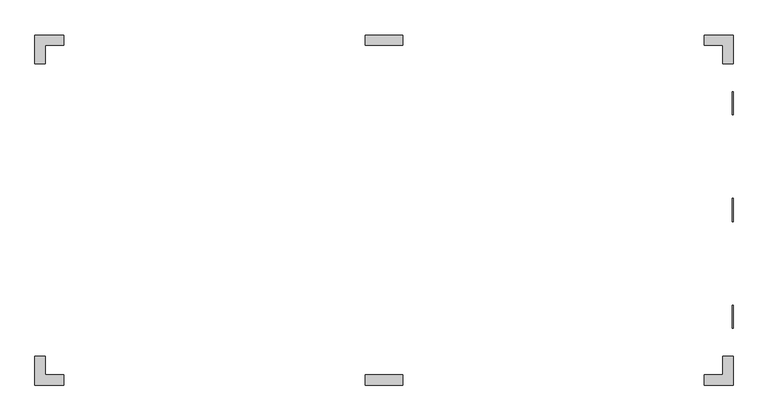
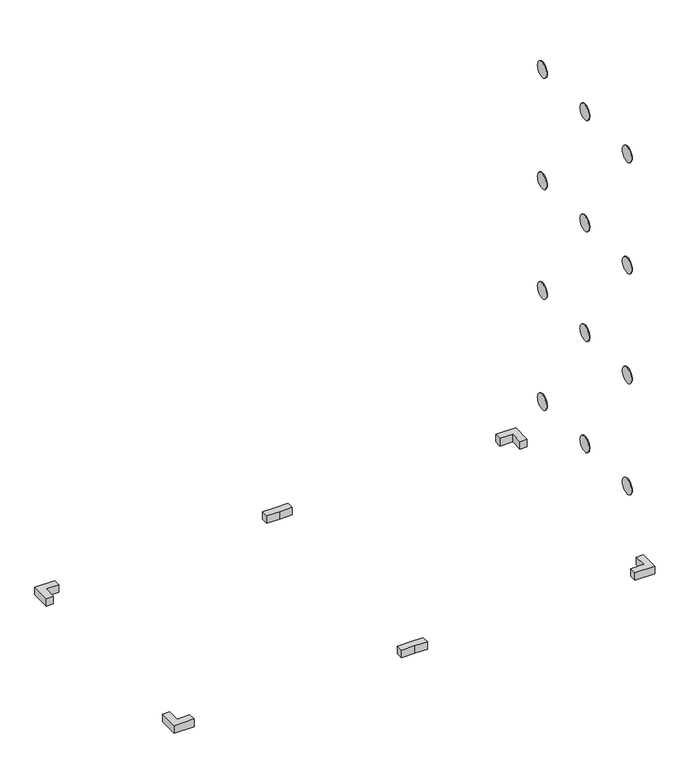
"""IFC4 building model written with IfcOpenShell, lengths in millimetres: cable carrier fitting geometry, КНС_КолодецПластиковыйСЛюком_1500-750-1500_301500_DKC : Колодец кабельный 1500×750×1500_301500."""

from ifc_helpers import new_model, si_unit, point, frame, frame_2d, origin, place, context, project, spatial, polyline, circle_curve, trimmed, segment, composite_curve, outline, extrude, source, transform, mapped, element, save


def cable_carrier_fitting_5b58c212(model_context):
    return source(origin(), model_context, "Body", "SweptSolid", [
        extrude(outline(composite_curve([segment(trimmed(circle_curve(frame_2d((-230.0, 593.75)), 25.0), [point((-255.0, 593.75))], [point((-205.0, 593.75))], False, "CARTESIAN"), True, "CONTINUOUS"), segment(trimmed(circle_curve(frame_2d((-230.0, 593.75)), 25.0), [point((-205.0, 593.75))], [point((-255.0, 593.75))], False, "CARTESIAN"), True, "CONTINUOUS")], self_intersect=False)), frame((750.0, 0.0, 0.0), z_axis=(1.0, 0.0, 0.0), x_axis=(0.0, 1.0, 0.0)), (0.0, 0.0, 1.0), 2.0),
        extrude(outline(composite_curve([segment(trimmed(circle_curve(frame_2d((0.0, 593.75)), 25.0), [point((-25.0, 593.75))], [point((25.0, 593.75))], False, "CARTESIAN"), True, "CONTINUOUS"), segment(trimmed(circle_curve(frame_2d((0.0, 593.75)), 25.0), [point((25.0, 593.75))], [point((-25.0, 593.75))], False, "CARTESIAN"), True, "CONTINUOUS")], self_intersect=False)), frame((750.0, 0.0, 0.0), z_axis=(1.0, 0.0, 0.0), x_axis=(0.0, 1.0, 0.0)), (0.0, 0.0, 1.0), 2.0),
        extrude(outline(composite_curve([segment(trimmed(circle_curve(frame_2d((230.0, 593.75)), 25.0), [point((205.0, 593.75))], [point((255.0, 593.75))], False, "CARTESIAN"), True, "CONTINUOUS"), segment(trimmed(circle_curve(frame_2d((230.0, 593.75)), 25.0), [point((255.0, 593.75))], [point((205.0, 593.75))], False, "CARTESIAN"), True, "CONTINUOUS")], self_intersect=False)), frame((750.0, 0.0, 0.0), z_axis=(1.0, 0.0, 0.0), x_axis=(0.0, 1.0, 0.0)), (0.0, 0.0, 1.0), 2.0),
        extrude(outline(composite_curve([segment(trimmed(circle_curve(frame_2d((-230.0, 226.25)), 25.0), [point((-255.0, 226.25))], [point((-205.0, 226.25))], False, "CARTESIAN"), True, "CONTINUOUS"), segment(trimmed(circle_curve(frame_2d((-230.0, 226.25)), 25.0), [point((-205.0, 226.25))], [point((-255.0, 226.25))], False, "CARTESIAN"), True, "CONTINUOUS")], self_intersect=False)), frame((750.0, 0.0, 0.0), z_axis=(1.0, 0.0, 0.0), x_axis=(0.0, 1.0, 0.0)), (0.0, 0.0, 1.0), 2.0),
        extrude(outline(composite_curve([segment(trimmed(circle_curve(frame_2d((0.0, 226.25)), 25.0), [point((-25.0, 226.25))], [point((25.0, 226.25))], False, "CARTESIAN"), True, "CONTINUOUS"), segment(trimmed(circle_curve(frame_2d((0.0, 226.25)), 25.0), [point((25.0, 226.25))], [point((-25.0, 226.25))], False, "CARTESIAN"), True, "CONTINUOUS")], self_intersect=False)), frame((750.0, 0.0, 0.0), z_axis=(1.0, 0.0, 0.0), x_axis=(0.0, 1.0, 0.0)), (0.0, 0.0, 1.0), 2.0),
        extrude(outline(composite_curve([segment(trimmed(circle_curve(frame_2d((230.0, 226.25)), 25.0), [point((205.0, 226.25))], [point((255.0, 226.25))], False, "CARTESIAN"), True, "CONTINUOUS"), segment(trimmed(circle_curve(frame_2d((230.0, 226.25)), 25.0), [point((255.0, 226.25))], [point((205.0, 226.25))], False, "CARTESIAN"), True, "CONTINUOUS")], self_intersect=False)), frame((750.0, 0.0, 0.0), z_axis=(1.0, 0.0, 0.0), x_axis=(0.0, 1.0, 0.0)), (0.0, 0.0, 1.0), 2.0),
        extrude(outline(composite_curve([segment(trimmed(circle_curve(frame_2d((-230.0, 956.25)), 25.0), [point((-255.0, 956.25))], [point((-205.0, 956.25))], False, "CARTESIAN"), True, "CONTINUOUS"), segment(trimmed(circle_curve(frame_2d((-230.0, 956.25)), 25.0), [point((-205.0, 956.25))], [point((-255.0, 956.25))], False, "CARTESIAN"), True, "CONTINUOUS")], self_intersect=False)), frame((750.0, 0.0, 0.0), z_axis=(1.0, 0.0, 0.0), x_axis=(0.0, 1.0, 0.0)), (0.0, 0.0, 1.0), 2.0),
        extrude(outline(composite_curve([segment(trimmed(circle_curve(frame_2d((0.0, 956.25)), 25.0), [point((-25.0, 956.25))], [point((25.0, 956.25))], False, "CARTESIAN"), True, "CONTINUOUS"), segment(trimmed(circle_curve(frame_2d((0.0, 956.25)), 25.0), [point((25.0, 956.25))], [point((-25.0, 956.25))], False, "CARTESIAN"), True, "CONTINUOUS")], self_intersect=False)), frame((750.0, 0.0, 0.0), z_axis=(1.0, 0.0, 0.0), x_axis=(0.0, 1.0, 0.0)), (0.0, 0.0, 1.0), 2.0),
        extrude(outline(composite_curve([segment(trimmed(circle_curve(frame_2d((230.0, 956.25)), 25.0), [point((205.0, 956.25))], [point((255.0, 956.25))], False, "CARTESIAN"), True, "CONTINUOUS"), segment(trimmed(circle_curve(frame_2d((230.0, 956.25)), 25.0), [point((255.0, 956.25))], [point((205.0, 956.25))], False, "CARTESIAN"), True, "CONTINUOUS")], self_intersect=False)), frame((750.0, 0.0, 0.0), z_axis=(1.0, 0.0, 0.0), x_axis=(0.0, 1.0, 0.0)), (0.0, 0.0, 1.0), 2.0),
        extrude(outline(composite_curve([segment(trimmed(circle_curve(frame_2d((-230.0, 1323.75)), 25.0), [point((-255.0, 1323.75))], [point((-205.0, 1323.75))], False, "CARTESIAN"), True, "CONTINUOUS"), segment(trimmed(circle_curve(frame_2d((-230.0, 1323.75)), 25.0), [point((-205.0, 1323.75))], [point((-255.0, 1323.75))], False, "CARTESIAN"), True, "CONTINUOUS")], self_intersect=False)), frame((750.0, 0.0, 0.0), z_axis=(1.0, 0.0, 0.0), x_axis=(0.0, 1.0, 0.0)), (0.0, 0.0, 1.0), 2.0),
        extrude(outline(composite_curve([segment(trimmed(circle_curve(frame_2d((0.0, 1323.75)), 25.0), [point((-25.0, 1323.75))], [point((25.0, 1323.75))], False, "CARTESIAN"), True, "CONTINUOUS"), segment(trimmed(circle_curve(frame_2d((0.0, 1323.75)), 25.0), [point((25.0, 1323.75))], [point((-25.0, 1323.75))], False, "CARTESIAN"), True, "CONTINUOUS")], self_intersect=False)), frame((750.0, 0.0, 0.0), z_axis=(1.0, 0.0, 0.0), x_axis=(0.0, 1.0, 0.0)), (0.0, 0.0, 1.0), 2.0),
        extrude(outline(composite_curve([segment(trimmed(circle_curve(frame_2d((230.0, 1323.75)), 25.0), [point((205.0, 1323.75))], [point((255.0, 1323.75))], False, "CARTESIAN"), True, "CONTINUOUS"), segment(trimmed(circle_curve(frame_2d((230.0, 1323.75)), 25.0), [point((255.0, 1323.75))], [point((205.0, 1323.75))], False, "CARTESIAN"), True, "CONTINUOUS")], self_intersect=False)), frame((750.0, 0.0, 0.0), z_axis=(1.0, 0.0, 0.0), x_axis=(0.0, 1.0, 0.0)), (0.0, 0.0, 1.0), 2.0),
        extrude(outline(polyline([(-752.0, 315.0), (-752.0, 377.0), (-690.0, 377.0), (-690.0, 355.0), (-730.0, 355.0), (-730.0, 315.0), (-752.0, 315.0)])), frame((0.0, 0.0, 25.0), z_axis=(0.0, 0.0, 1.0), x_axis=(1.0, 0.0, 0.0)), (0.0, 0.0, 1.0), 25.0),
        extrude(outline(polyline([(752.0, 315.0), (730.0, 315.0), (730.0, 355.0), (690.0, 355.0), (690.0, 377.0), (752.0, 377.0), (752.0, 315.0)])), frame((0.0, 0.0, 25.0), z_axis=(0.0, 0.0, 1.0), x_axis=(1.0, 0.0, 0.0)), (0.0, 0.0, 1.0), 25.0),
        extrude(outline(polyline([(-752.0, -315.0), (-730.0, -315.0), (-730.0, -355.0), (-690.0, -355.0), (-690.0, -377.0), (-752.0, -377.0), (-752.0, -315.0)])), frame((0.0, 0.0, 25.0), z_axis=(0.0, 0.0, 1.0), x_axis=(1.0, 0.0, 0.0)), (0.0, 0.0, 1.0), 25.0),
        extrude(outline(polyline([(752.0, -315.0), (752.0, -377.0), (690.0, -377.0), (690.0, -355.0), (730.0, -355.0), (730.0, -315.0), (752.0, -315.0)])), frame((0.0, 0.0, 25.0), z_axis=(0.0, 0.0, 1.0), x_axis=(1.0, 0.0, 0.0)), (0.0, 0.0, 1.0), 25.0),
        extrude(outline(polyline([(40.0, -355.0), (40.0, -377.0), (0.0, -377.0), (-40.0, -377.0), (-40.0, -355.0), (0.0, -355.0), (40.0, -355.0)])), frame((0.0, 0.0, 25.0), z_axis=(0.0, 0.0, 1.0), x_axis=(1.0, 0.0, 0.0)), (0.0, 0.0, 1.0), 25.0),
        extrude(outline(polyline([(40.0, 355.0), (0.0, 355.0), (-40.0, 355.0), (-40.0, 377.0), (0.0, 377.0), (40.0, 377.0), (40.0, 355.0)])), frame((0.0, 0.0, 25.0), z_axis=(0.0, 0.0, 1.0), x_axis=(1.0, 0.0, 0.0)), (0.0, 0.0, 1.0), 25.0),
    ])


if __name__ == "__main__":
    model = new_model("IFC4")
    model_context = context("Model", 3, world=origin())
    ifc_project = project(units=[si_unit("LENGTHUNIT", "METRE", prefix="MILLI")], contexts=[model_context])
    site = spatial("IfcSite", under=ifc_project)
    building = spatial("IfcBuilding", under=site)
    placement = place(None, origin())
    cable_carrier_fitting_shape = cable_carrier_fitting_5b58c212(model_context)
    element("IfcCableCarrierFitting", 1, ObjectType="КНС_КолодецПластиковыйСЛюком_1500-750-1500_301500_DKC : Колодец кабельный 1500×750×1500_301500", at=placement, inside=building, context=model_context, shape_type="MappedRepresentation", body=[
        mapped(cable_carrier_fitting_shape, transform((0.0, 0.0, 0.0), x_axis=(1.0, 0.0, 0.0), y_axis=(0.0, 1.0, 0.0), z_axis=(0.0, 0.0, 1.0))),
    ])
    save(model, "model.ifc")
